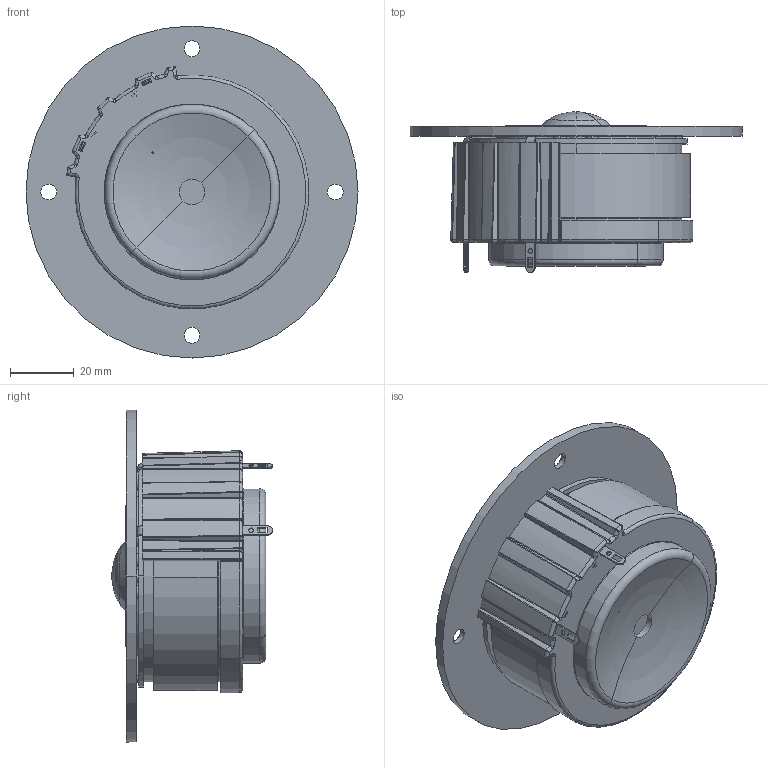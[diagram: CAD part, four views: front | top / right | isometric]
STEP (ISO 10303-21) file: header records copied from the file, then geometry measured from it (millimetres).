
FILE_DESCRIPTION (( 'STEP AP214' ), '1' );
FILE_NAME ('D2905-970000.STEP', '2020-10-15T09:23:15', ( '' ), ( '' ), 'SwSTEP 2.0', 'SolidWorks 2019', '' );
FILE_SCHEMA (( 'AUTOMOTIVE_DESIGN' ));
Length unit declared in the file: millimetre
Products named in the file (1): D2905-970000
Bounding box: 104.3 x 50.57 x 104.3 mm (x, y, z)
Volume: 173326 mm3; surface area: 44792.2 mm2
Topology: 8 solids, 12 shells, 542 faces, 1348 edges, 841 vertices
Faces by surface type: cylinder 215, plane 206, bspline 68, torus 32, cone 19, sphere 2
Entity records: 23266 total; most frequent: CARTESIAN_POINT 4565, DIRECTION 2753, ORIENTED_EDGE 2660, EDGE_CURVE 1330, AXIS2_PLACEMENT_3D 1101, VERTEX_POINT 841, CIRCLE 626, EDGE_LOOP 611
